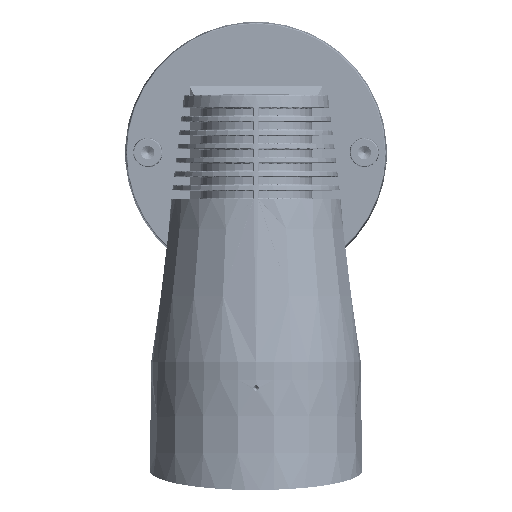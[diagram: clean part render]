
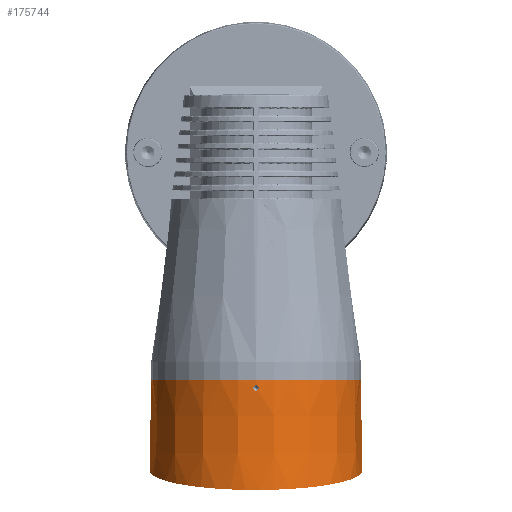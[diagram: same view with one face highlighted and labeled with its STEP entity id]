
A CAD part, top view. The second image highlights one B-rep face of the part: STEP entity #175744.
In plain terms, the highlighted conical face has half-angle 1 degrees and reference radius 60.552 mm.
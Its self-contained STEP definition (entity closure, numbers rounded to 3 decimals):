
#174295=CARTESIAN_POINT('',(0.,0.,0.));
#174296=DIRECTION('',(0.,1.,0.));
#174297=DIRECTION('',(-1.,0.,0.));
#174298=AXIS2_PLACEMENT_3D('',#174295,#174296,#174297);
#174310=CARTESIAN_POINT('',(60.908,52.,0.));
#174458=CARTESIAN_POINT('',(-60.908,52.,0.));
#174460=DIRECTION('',(0.017,1.,0.));
#174461=VECTOR('',#174460,52.008);
#174462=CARTESIAN_POINT('',(60.,0.,0.));
#174463=LINE('',#174462,#174461);
#174654=CARTESIAN_POINT('',(-60.908,52.,0.));
#174655=CARTESIAN_POINT('',(-60.919,52.659,
3.595));
#174656=CARTESIAN_POINT('',(-60.303,54.027,
11.057));
#174657=CARTESIAN_POINT('',(-57.096,56.133,
22.542));
#174658=CARTESIAN_POINT('',(-51.436,58.163,
33.617));
#174659=CARTESIAN_POINT('',(-43.451,59.976,
43.507));
#174660=CARTESIAN_POINT('',(-33.586,61.446,
51.524));
#174661=CARTESIAN_POINT('',(-24.373,62.316,
56.27));
#174662=CARTESIAN_POINT('',(-16.791,62.788,
58.843));
#174663=CARTESIAN_POINT('',(-11.093,63.033,
60.178));
#174664=CARTESIAN_POINT('',(-5.45,63.173,
60.944));
#174665=CARTESIAN_POINT('',(0.,63.217,61.183));
#174666=CARTESIAN_POINT('',(5.45,63.173,
60.944));
#174667=CARTESIAN_POINT('',(11.093,63.033,
60.178));
#174668=CARTESIAN_POINT('',(16.791,62.788,
58.843));
#174669=CARTESIAN_POINT('',(24.373,62.316,
56.27));
#174670=CARTESIAN_POINT('',(33.586,61.446,
51.524));
#174671=CARTESIAN_POINT('',(43.451,59.976,
43.507));
#174672=CARTESIAN_POINT('',(51.436,58.163,
33.617));
#174673=CARTESIAN_POINT('',(57.096,56.133,
22.542));
#174674=CARTESIAN_POINT('',(60.303,54.027,
11.057));
#174675=CARTESIAN_POINT('',(60.919,52.659,
3.595));
#174676=CARTESIAN_POINT('',(60.908,52.,0.));
#174678=DIRECTION('',(-0.017,1.,0.));
#174679=VECTOR('',#174678,52.008);
#174680=CARTESIAN_POINT('',(-60.,0.,0.));
#174681=LINE('',#174680,#174679);
#174682=CARTESIAN_POINT('',(0.,3.2,60.056));
#174683=CARTESIAN_POINT('',(-0.185,3.2,60.056));
#174684=CARTESIAN_POINT('',(-0.556,3.264,
60.055));
#174685=CARTESIAN_POINT('',(-1.055,3.554,
60.053));
#174686=CARTESIAN_POINT('',(-1.411,3.977,
60.053));
#174687=CARTESIAN_POINT('',(-1.609,4.525,
60.057));
#174688=CARTESIAN_POINT('',(-1.609,5.075,
60.067));
#174689=CARTESIAN_POINT('',(-1.411,5.622,
60.082));
#174690=CARTESIAN_POINT('',(-1.055,6.045,
60.097));
#174691=CARTESIAN_POINT('',(-0.556,6.336,
60.109));
#174692=CARTESIAN_POINT('',(-0.185,6.4,60.112));
#174693=CARTESIAN_POINT('',(0.,6.4,60.112));
#174695=CARTESIAN_POINT('',(0.,6.4,60.112));
#174696=CARTESIAN_POINT('',(0.185,6.4,60.112));
#174697=CARTESIAN_POINT('',(0.556,6.336,
60.109));
#174698=CARTESIAN_POINT('',(1.055,6.046,
60.097));
#174699=CARTESIAN_POINT('',(1.411,5.623,
60.082));
#174700=CARTESIAN_POINT('',(1.609,5.075,
60.067));
#174701=CARTESIAN_POINT('',(1.609,4.525,
60.057));
#174702=CARTESIAN_POINT('',(1.411,3.978,
60.053));
#174703=CARTESIAN_POINT('',(1.055,3.555,
60.053));
#174704=CARTESIAN_POINT('',(0.556,3.264,
60.055));
#174705=CARTESIAN_POINT('',(0.185,3.2,60.056));
#174706=CARTESIAN_POINT('',(0.,3.2,60.056));
#175513=CARTESIAN_POINT('',(60.,0.,0.));
#175514=CARTESIAN_POINT('',(-60.,0.,0.));
#175515=VERTEX_POINT('',#175513);
#175516=VERTEX_POINT('',#175514);
#175517=VERTEX_POINT('',#174310);
#175518=VERTEX_POINT('',#174458);
#175521=VERTEX_POINT('',#174682);
#175522=VERTEX_POINT('',#174693);
#175727=CARTESIAN_POINT('',(0.,31.605,0.));
#175728=DIRECTION('',(0.,1.,0.));
#175729=DIRECTION('',(1.,0.,0.));
#175730=AXIS2_PLACEMENT_3D('',#175727,#175728,#175729);
#175731=CONICAL_SURFACE('',#175730,60.552,1.);
#175732=ORIENTED_EDGE('',*,*,#175716,.T.);
#175733=ORIENTED_EDGE('',*,*,#175699,.F.);
#175734=ORIENTED_EDGE('',*,*,#175678,.F.);
#175735=ORIENTED_EDGE('',*,*,#175696,.T.);
#175736=EDGE_LOOP('',(#175732,#175733,#175734,#175735));
#175737=FACE_OUTER_BOUND('',#175736,.F.);
#175739=ORIENTED_EDGE('',*,*,#175738,.F.);
#175741=ORIENTED_EDGE('',*,*,#175740,.F.);
#175742=EDGE_LOOP('',(#175739,#175741));
#175743=FACE_BOUND('',#175742,.F.);
#175744=ADVANCED_FACE('',(#175737,#175743),#175731,.T.);
#174299=CIRCLE('',#174298,60.);
#174677=B_SPLINE_CURVE_WITH_KNOTS('',3,(#174654,#174655,#174656,#174657,#174658,
#174659,#174660,#174661,#174662,#174663,#174664,#174665,#174666,#174667,#174668,
#174669,#174670,#174671,#174672,#174673,#174674,#174675,#174676),.UNSPECIFIED.,
.F.,.F.,(4,1,1,1,1,1,1,1,1,1,1,1,1,1,1,1,1,1,1,1,4),(0.,0.063,0.125,
0.188,0.25,0.313,0.375,0.406,0.438,0.469,0.5,0.531,
0.563,0.594,0.625,0.688,0.75,0.813,0.875,0.938,1.),
.UNSPECIFIED.);
#174694=B_SPLINE_CURVE_WITH_KNOTS('',3,(#174682,#174683,#174684,#174685,#174686,
#174687,#174688,#174689,#174690,#174691,#174692,#174693),.UNSPECIFIED.,.F.,.F.,(
4,1,1,1,1,1,1,1,1,4),(0.,0.111,0.222,
0.333,0.444,0.556,0.667,
0.778,0.889,1.),.UNSPECIFIED.);
#174707=B_SPLINE_CURVE_WITH_KNOTS('',3,(#174695,#174696,#174697,#174698,#174699,
#174700,#174701,#174702,#174703,#174704,#174705,#174706),.UNSPECIFIED.,.F.,.F.,(
4,1,1,1,1,1,1,1,1,4),(0.,0.111,0.222,
0.333,0.444,0.556,0.667,
0.778,0.889,1.),.UNSPECIFIED.);
#175678=EDGE_CURVE('',#175516,#175515,#174299,.T.);
#175696=EDGE_CURVE('',#175516,#175518,#174681,.T.);
#175699=EDGE_CURVE('',#175515,#175517,#174463,.T.);
#175716=EDGE_CURVE('',#175518,#175517,#174677,.T.);
#175738=EDGE_CURVE('',#175521,#175522,#174694,.T.);
#175740=EDGE_CURVE('',#175522,#175521,#174707,.T.);
